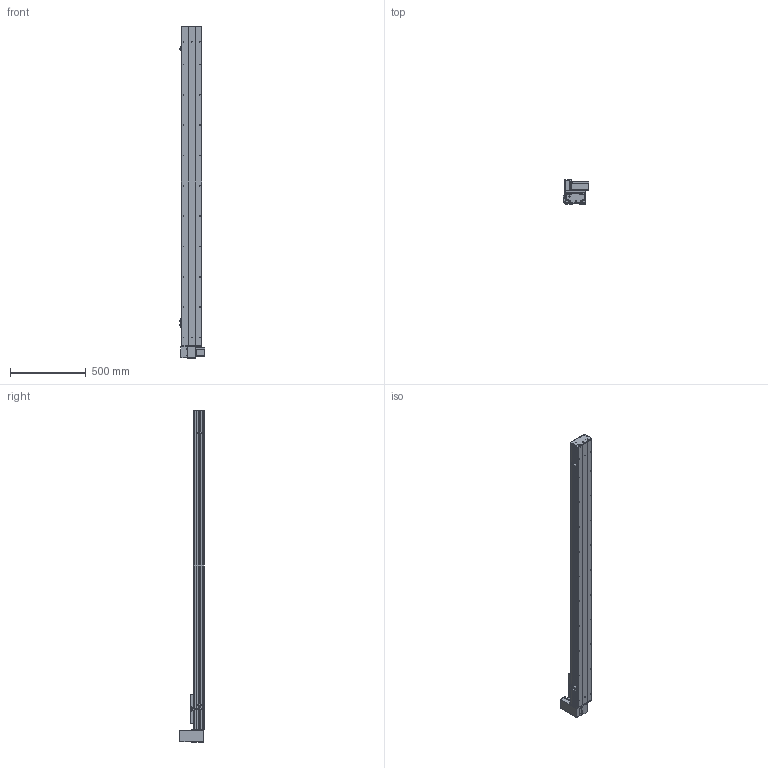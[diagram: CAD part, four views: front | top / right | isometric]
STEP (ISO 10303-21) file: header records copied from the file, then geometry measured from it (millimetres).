
FILE_DESCRIPTION (( 'STEP AP203' ), '1' );
FILE_NAME ('Y135CB-D90-S1800-UR-P400W.STEP', '2020-02-18T04:23:28', ( '微软用户' ), ( '微软中国' ), 'SwSTEP 2.0', 'SolidWorks 2017', '' );
FILE_SCHEMA (( 'CONFIG_CONTROL_DESIGN' ));
Length unit declared in the file: millimetre
Products named in the file (18): Y10B--々湍喘謫眊--666; san松下电机400不带刹车----; Y10B-耜蚾蟀諉啣----; 5CB --掛极耜裔啣-; 00B-俋欶BM--; C-詩湍揤踡え-陔; Y135CB-耜裔; Y135CB-D90-S1800-UR-P400W; 135CB--詩湍-CE; 135CB---遴掛极.-; Y100-135俋离換覜ん--; 35CB---喘謫眊楊擘啣; Y135C-陔俋离換覜結え-; 0B-埴倛裔啣; 5C--俋欶; 0B-源倛裔啣; C-雄赽釱--; 0B-萇儂楊擘啣
Assembly tree (21 placements, depth 2):
  Y135CB-D90-S1800-UR-P400W
    Y135CB-耜裔
    135CB---遴掛极.-
    35CB---喘謫眊楊擘啣
    0B-埴倛裔啣
    0B-源倛裔啣
    0B-萇儂楊擘啣
    san松下电机400不带刹车----
    5CB --掛极耜裔啣-  x2
    C-詩湍揤踡え-陔  x2
    135CB--詩湍-CE
    Y100-135俋离換覜ん--  x3
    Y135C-陔俋离換覜結え-
    5C--俋欶
    C-雄赽釱--
    Y10B--々湍喘謫眊--666
    Y10B-耜蚾蟀諉啣----
    00B-俋欶BM--
Bounding box: 167.5 x 158.7 x 2188 mm (x, y, z)
Volume: 6463981.7 mm3; surface area: 2550237.8 mm2
Topology: 21 solids, 21 shells, 961 faces, 2599 edges, 1722 vertices
Faces by surface type: cylinder 489, plane 456, cone 16
Entity records: 30157 total; most frequent: DIRECTION 5011, CARTESIAN_POINT 4988, ORIENTED_EDGE 4674, EDGE_CURVE 2337, AXIS2_PLACEMENT_3D 1833, VERTEX_POINT 1550, LINE 1345, VECTOR 1345
